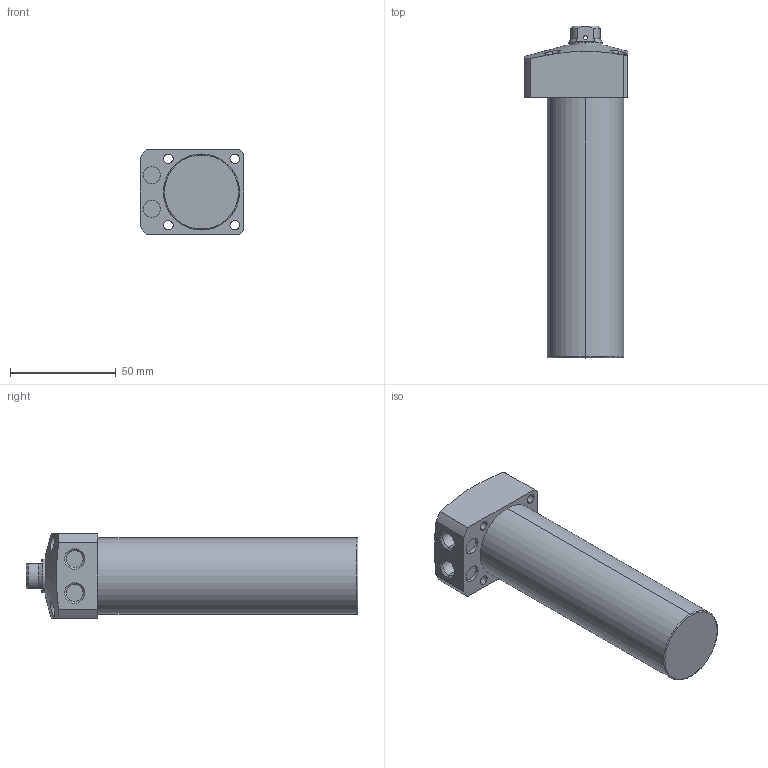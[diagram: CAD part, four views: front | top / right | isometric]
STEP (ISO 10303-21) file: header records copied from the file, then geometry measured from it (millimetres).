
FILE_DESCRIPTION (( 'STEP AP203' ), '1' );
FILE_NAME ('CLL-036CB-100.STEP', '2019-12-21T02:38:16', ( '' ), ( '' ), 'SwSTEP 2.0', 'SolidWorks 2015', '' );
FILE_SCHEMA (( 'CONFIG_CONTROL_DESIGN' ));
Length unit declared in the file: millimetre
Products named in the file (1): CLL-036CB-100
Bounding box: 49 x 157 x 40 mm (x, y, z)
Volume: 166618.9 mm3; surface area: 24119 mm2
Topology: 1 solids, 1 shells, 76 faces, 184 edges, 117 vertices
Faces by surface type: cylinder 38, plane 22, cone 14, torus 2
Entity records: 2699 total; most frequent: CARTESIAN_POINT 814, DIRECTION 386, ORIENTED_EDGE 364, EDGE_CURVE 182, AXIS2_PLACEMENT_3D 159, VERTEX_POINT 117, EDGE_LOOP 97, CIRCLE 82
